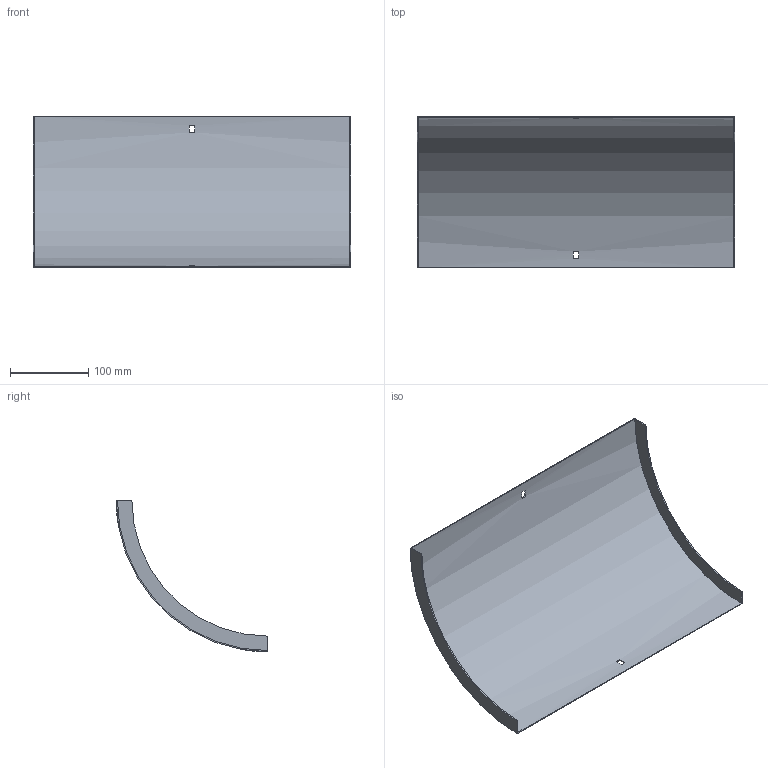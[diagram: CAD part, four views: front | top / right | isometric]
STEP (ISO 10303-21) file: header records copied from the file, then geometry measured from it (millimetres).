
FILE_DESCRIPTION (( 'STEP AP214' ), '1' );
FILE_NAME ('33N1I400.step', '2025-02-21T09:19:42', ( '' ), ( '' ), 'SwSTEP 2.0', 'SolidWorks 2023', '' );
FILE_SCHEMA (( 'AUTOMOTIVE_DESIGN' ));
Length unit declared in the file: millimetre
Products named in the file (1): 33N1I400
Bounding box: 407 x 194 x 194 mm (x, y, z)
Volume: 201120.6 mm3; surface area: 270409.7 mm2
Topology: 1 solids, 1 shells, 18 faces, 48 edges, 32 vertices
Faces by surface type: plane 14, cylinder 4
Entity records: 599 total; most frequent: DIRECTION 102, CARTESIAN_POINT 99, ORIENTED_EDGE 96, EDGE_CURVE 48, AXIS2_PLACEMENT_3D 35, VECTOR 32, VERTEX_POINT 32, LINE 32
